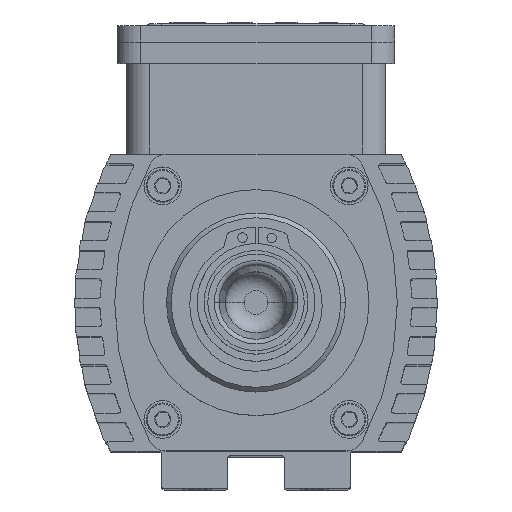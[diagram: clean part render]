
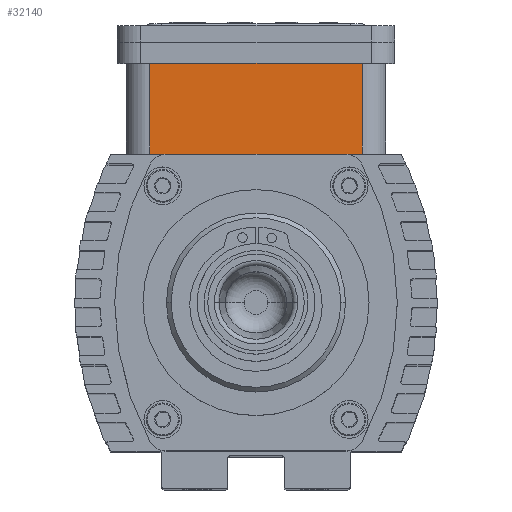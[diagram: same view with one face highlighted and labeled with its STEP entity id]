
A CAD part, top view. The second image highlights one B-rep face of the part: STEP entity #32140.
In plain terms, the highlighted planar face has unit normal (0, 0, 1).
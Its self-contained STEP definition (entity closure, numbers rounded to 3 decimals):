
#148 = DIRECTION ( 'NONE',  ( 0., 0., -1. ) ) ;
#967 = CARTESIAN_POINT ( 'NONE',  ( -60.861, 0., 27.6 ) ) ;
#3433 = EDGE_CURVE ( 'NONE', #25077, #19380, #4488, .T. ) ;
#3613 = EDGE_CURVE ( 'NONE', #19380, #14622, #21126, .T. ) ;
#3666 = CARTESIAN_POINT ( 'NONE',  ( -60.861, 24., 27.6 ) ) ;
#4488 = LINE ( 'NONE', #967, #24110 ) ;
#6202 = CARTESIAN_POINT ( 'NONE',  ( 22.6, 19.5, 27.6 ) ) ;
#7251 = PLANE ( 'NONE',  #27430 ) ;
#7947 = ORIENTED_EDGE ( 'NONE', *, *, #24615, .T. ) ;
#8215 = DIRECTION ( 'NONE',  ( 0., -1., 0. ) ) ;
#8785 = ORIENTED_EDGE ( 'NONE', *, *, #3613, .T. ) ;
#9465 = CARTESIAN_POINT ( 'NONE',  ( -22.6, 19.5, 27.6 ) ) ;
#11734 = ORIENTED_EDGE ( 'NONE', *, *, #3433, .T. ) ;
#11852 = CARTESIAN_POINT ( 'NONE',  ( -22.6, 24., 27.6 ) ) ;
#13968 = DIRECTION ( 'NONE',  ( 0., 1., 0. ) ) ;
#14622 = VERTEX_POINT ( 'NONE', #6202 ) ;
#17553 = CARTESIAN_POINT ( 'NONE',  ( 22.6, 19.5, 27.6 ) ) ;
#19380 = VERTEX_POINT ( 'NONE', #27289 ) ;
#21126 = LINE ( 'NONE', #17553, #22576 ) ;
#21259 = ORIENTED_EDGE ( 'NONE', *, *, #32356, .F. ) ;
#21996 = DIRECTION ( 'NONE',  ( 1., 0., 0. ) ) ;
#22270 = VECTOR ( 'NONE', #21996, 1000. ) ;
#22576 = VECTOR ( 'NONE', #13968, 1000. ) ;
#22585 = LINE ( 'NONE', #11852, #24794 ) ;
#23861 = FACE_OUTER_BOUND ( 'NONE', #32703, .T. ) ;
#24110 = VECTOR ( 'NONE', #32257, 1000. ) ;
#24615 = EDGE_CURVE ( 'NONE', #30897, #25077, #22585, .T. ) ;
#24794 = VECTOR ( 'NONE', #8215, 1000. ) ;
#25077 = VERTEX_POINT ( 'NONE', #27995 ) ;
#25589 = CARTESIAN_POINT ( 'NONE',  ( -27.6, 19.5, 27.6 ) ) ;
#27289 = CARTESIAN_POINT ( 'NONE',  ( 22.6, 0., 27.6 ) ) ;
#27430 = AXIS2_PLACEMENT_3D ( 'NONE', #3666, #148, #31445 ) ;
#27995 = CARTESIAN_POINT ( 'NONE',  ( -22.6, 0., 27.6 ) ) ;
#29104 = LINE ( 'NONE', #25589, #22270 ) ;
#30897 = VERTEX_POINT ( 'NONE', #9465 ) ;
#31445 = DIRECTION ( 'NONE',  ( -1., 0., 0. ) ) ;
#32140 = ADVANCED_FACE ( 'NONE', ( #23861 ), #7251, .F. ) ;
#32257 = DIRECTION ( 'NONE',  ( 1., 0., 0. ) ) ;
#32356 = EDGE_CURVE ( 'NONE', #30897, #14622, #29104, .T. ) ;
#32703 = EDGE_LOOP ( 'NONE', ( #11734, #8785, #21259, #7947 ) ) ;
